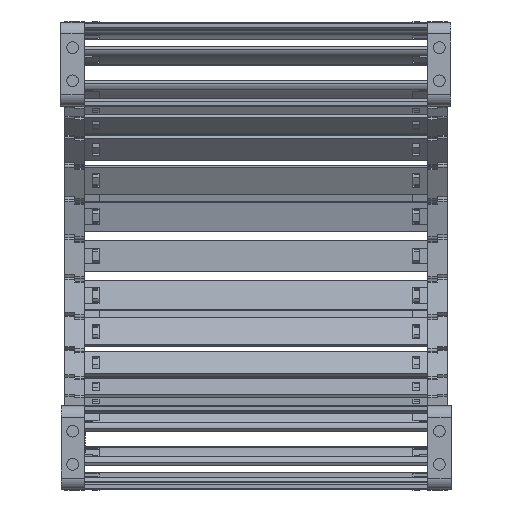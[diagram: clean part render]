
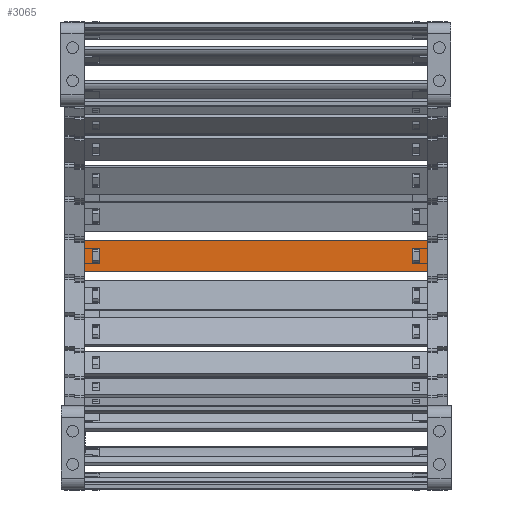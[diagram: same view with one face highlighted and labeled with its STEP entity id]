
A CAD part, left-side view. The second image highlights one B-rep face of the part: STEP entity #3065.
In plain terms, the highlighted planar face has unit normal (-1, 0, 0) as drawn and (0, 1, 0) by its records, which use the part's own axes.
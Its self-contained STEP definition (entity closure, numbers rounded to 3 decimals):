
#2485=DIRECTION('',(0.,0.,1.));
#2486=VECTOR('',#2485,15.8);
#2487=CARTESIAN_POINT('',(161.24,1.5,-7.9));
#2488=LINE('',#2487,#2486);
#2489=DIRECTION('',(-1.,0.,0.));
#2490=VECTOR('',#2489,176.);
#2491=CARTESIAN_POINT('',(161.24,1.5,7.9));
#2492=LINE('',#2491,#2490);
#2493=DIRECTION('',(0.,0.,-1.));
#2494=VECTOR('',#2493,15.8);
#2495=CARTESIAN_POINT('',(-14.76,1.5,7.9));
#2496=LINE('',#2495,#2494);
#2497=DIRECTION('',(1.,0.,0.));
#2498=VECTOR('',#2497,3.648);
#2499=CARTESIAN_POINT('',(153.622,1.5,4.075));
#2500=LINE('',#2499,#2498);
#2501=DIRECTION('',(0.,0.,-1.));
#2502=VECTOR('',#2501,8.15);
#2503=CARTESIAN_POINT('',(157.27,1.5,4.075));
#2504=LINE('',#2503,#2502);
#2505=DIRECTION('',(-1.,0.,0.));
#2506=VECTOR('',#2505,3.648);
#2507=CARTESIAN_POINT('',(157.27,1.5,-4.075));
#2508=LINE('',#2507,#2506);
#2509=DIRECTION('',(0.,0.,-1.));
#2510=VECTOR('',#2509,8.15);
#2511=CARTESIAN_POINT('',(-7.142,1.5,4.075));
#2512=LINE('',#2511,#2510);
#2513=DIRECTION('',(-1.,0.,0.));
#2514=VECTOR('',#2513,3.648);
#2515=CARTESIAN_POINT('',(-7.142,1.5,-4.075));
#2516=LINE('',#2515,#2514);
#2517=DIRECTION('',(0.,0.,1.));
#2518=VECTOR('',#2517,8.15);
#2519=CARTESIAN_POINT('',(-10.79,1.5,-4.075));
#2520=LINE('',#2519,#2518);
#2521=DIRECTION('',(1.,0.,0.));
#2522=VECTOR('',#2521,3.648);
#2523=CARTESIAN_POINT('',(-10.79,1.5,4.075));
#2524=LINE('',#2523,#2522);
#2529=DIRECTION('',(-1.,0.,0.));
#2530=VECTOR('',#2529,176.);
#2531=CARTESIAN_POINT('',(161.24,1.5,-7.9));
#2532=LINE('',#2531,#2530);
#2650=DIRECTION('',(0.,0.,-1.));
#2651=VECTOR('',#2650,8.15);
#2652=CARTESIAN_POINT('',(153.622,1.5,4.075));
#2653=LINE('',#2652,#2651);
#2835=CARTESIAN_POINT('',(157.27,1.5,4.075));
#2836=VERTEX_POINT('',#2835);
#2837=CARTESIAN_POINT('',(153.622,1.5,4.075));
#2838=VERTEX_POINT('',#2837);
#2879=CARTESIAN_POINT('',(153.622,1.5,-4.075));
#2880=VERTEX_POINT('',#2879);
#2881=CARTESIAN_POINT('',(157.27,1.5,-4.075));
#2882=VERTEX_POINT('',#2881);
#2883=CARTESIAN_POINT('',(161.24,1.5,7.9));
#2885=VERTEX_POINT('',#2883);
#2887=CARTESIAN_POINT('',(161.24,1.5,-7.9));
#2888=VERTEX_POINT('',#2887);
#2911=CARTESIAN_POINT('',(-7.142,1.5,4.075));
#2912=CARTESIAN_POINT('',(-7.142,1.5,-4.075));
#2913=VERTEX_POINT('',#2911);
#2914=VERTEX_POINT('',#2912);
#2915=CARTESIAN_POINT('',(-10.79,1.5,-4.075));
#2916=VERTEX_POINT('',#2915);
#2917=CARTESIAN_POINT('',(-10.79,1.5,4.075));
#2918=VERTEX_POINT('',#2917);
#2919=CARTESIAN_POINT('',(-14.76,1.5,7.9));
#2920=VERTEX_POINT('',#2919);
#2923=CARTESIAN_POINT('',(-14.76,1.5,-7.9));
#2924=VERTEX_POINT('',#2923);
#3034=CARTESIAN_POINT('',(192.98,1.5,10.061));
#3035=DIRECTION('',(0.,-1.,0.));
#3036=DIRECTION('',(0.,0.,-1.));
#3037=AXIS2_PLACEMENT_3D('',#3034,#3035,#3036);
#3038=PLANE('',#3037);
#3039=ORIENTED_EDGE('',*,*,#2973,.T.);
#3040=ORIENTED_EDGE('',*,*,#2999,.T.);
#3041=ORIENTED_EDGE('',*,*,#3012,.T.);
#3043=ORIENTED_EDGE('',*,*,#3042,.F.);
#3044=EDGE_LOOP('',(#3039,#3040,#3041,#3043));
#3045=FACE_OUTER_BOUND('',#3044,.F.);
#3047=ORIENTED_EDGE('',*,*,#3046,.F.);
#3048=ORIENTED_EDGE('',*,*,#2936,.T.);
#3050=ORIENTED_EDGE('',*,*,#3049,.T.);
#3052=ORIENTED_EDGE('',*,*,#3051,.T.);
#3053=EDGE_LOOP('',(#3047,#3048,#3050,#3052));
#3054=FACE_BOUND('',#3053,.F.);
#3056=ORIENTED_EDGE('',*,*,#3055,.T.);
#3058=ORIENTED_EDGE('',*,*,#3057,.T.);
#3060=ORIENTED_EDGE('',*,*,#3059,.T.);
#3062=ORIENTED_EDGE('',*,*,#3061,.T.);
#3063=EDGE_LOOP('',(#3056,#3058,#3060,#3062));
#3064=FACE_BOUND('',#3063,.F.);
#3065=ADVANCED_FACE('',(#3045,#3054,#3064),#3038,.F.);
#2936=EDGE_CURVE('',#2838,#2836,#2500,.T.);
#2973=EDGE_CURVE('',#2888,#2885,#2488,.T.);
#2999=EDGE_CURVE('',#2885,#2920,#2492,.T.);
#3012=EDGE_CURVE('',#2920,#2924,#2496,.T.);
#3042=EDGE_CURVE('',#2888,#2924,#2532,.T.);
#3046=EDGE_CURVE('',#2838,#2880,#2653,.T.);
#3049=EDGE_CURVE('',#2836,#2882,#2504,.T.);
#3051=EDGE_CURVE('',#2882,#2880,#2508,.T.);
#3055=EDGE_CURVE('',#2913,#2914,#2512,.T.);
#3057=EDGE_CURVE('',#2914,#2916,#2516,.T.);
#3059=EDGE_CURVE('',#2916,#2918,#2520,.T.);
#3061=EDGE_CURVE('',#2918,#2913,#2524,.T.);
